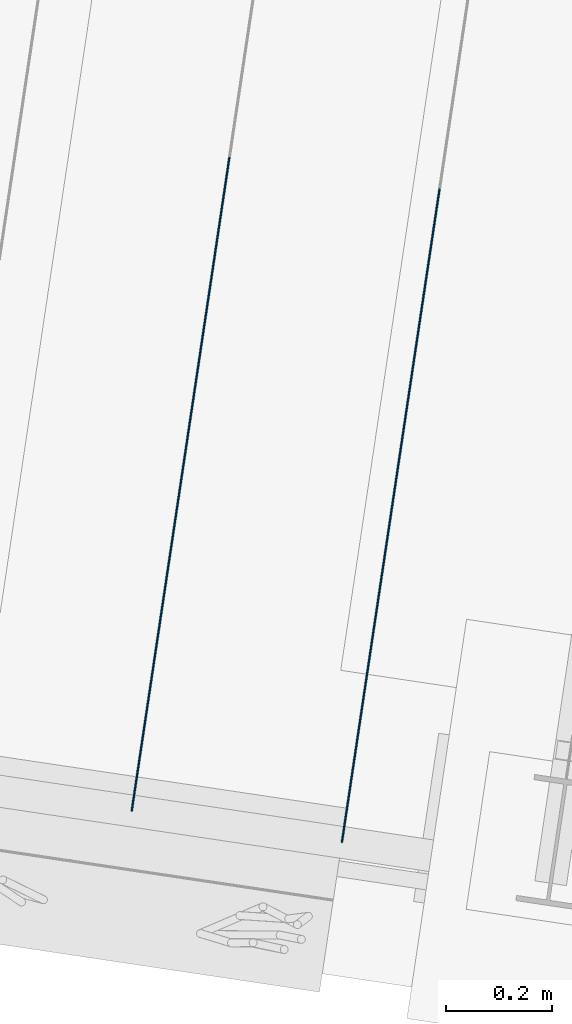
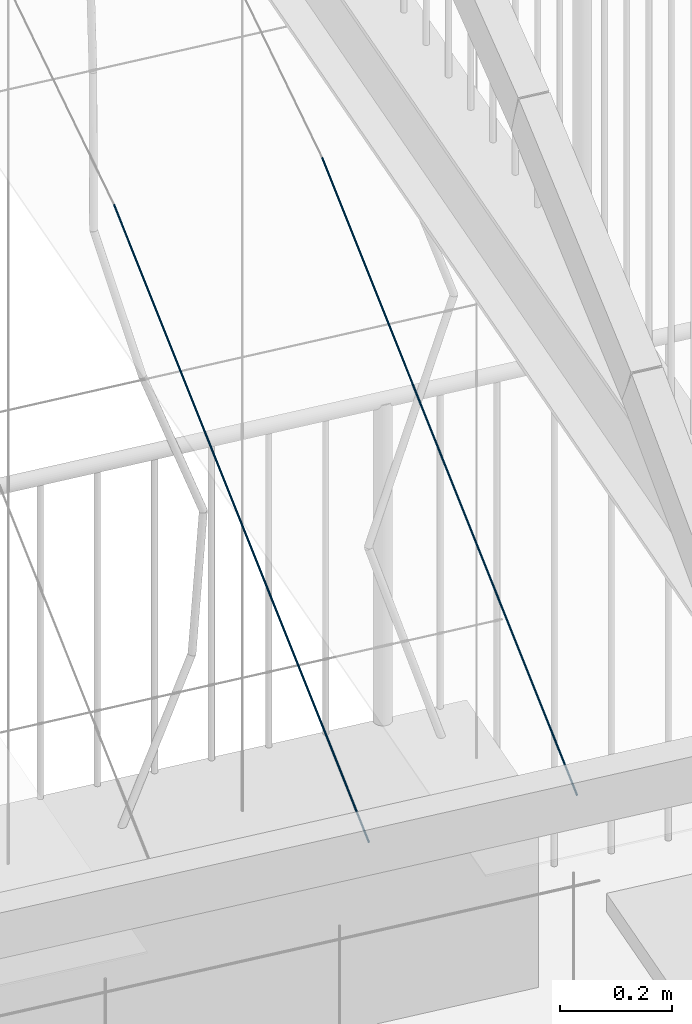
# One storey, part 13 of 142: 2 members, 1 element without a shape of its own.
"""IFC4 building model written with IfcOpenShell, lengths in metres."""

from ifc_helpers import new_model, si_unit, direction, frame, origin_with_axes, place, context, subcontext, project, spatial, circle, extrude, material, material_profile, profile_set, profile_usage, type_object, element, aggregate, save


model = new_model("IFC4")

# Units and contexts
model_context = context("Model", 3, precision=1e-05, world=origin_with_axes(), true_north=direction((0.0, 1.0)))
body_context = subcontext(model_context, "Body", "Model", "MODEL_VIEW")
ifc_project = project(units=[si_unit("LENGTHUNIT", "METRE"), si_unit("AREAUNIT", "SQUARE_METRE"), si_unit("VOLUMEUNIT", "CUBIC_METRE")], contexts=[model_context])

# Site, building, storey
site_placement = place(None, origin_with_axes())
site = spatial("IfcSite", under=ifc_project, at=site_placement, Name="Lares · Rua das Mercês · artigo 4771")
building_placement = place(site_placement, frame((15.0, 9.7, 14.65), z_axis=(0.0, 0.0, 1.0), x_axis=(0.989015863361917, -0.147809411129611, 0.0)))
building = spatial("IfcBuilding", under=site, at=building_placement, Name="Casa Sobreposta")
storey_placement = place(building_placement, origin_with_axes())
storey = spatial("IfcBuildingStorey", under=building, at=storey_placement, Name="00 · Habitação e estacionamento", Elevation=14.65)

# Assembly, members
assembly_placement = place(storey_placement, origin_with_axes())
assembly = element("IfcElementAssembly", 1, at=assembly_placement, inside=storey, Name="Pérgola · prolongamento da estufa 6 m", ObjectType="PERGOLA_GREENHOUSE_EXTENSION", PredefinedType="USERDEFINED")
ifc_material = material(Name="Aço galvanizado / Stahl verzinkt", Category="steel")
ifc_material_profile = material_profile(ifc_material, circle(Radius=0.002))
ifc_profile_set = profile_set([ifc_material_profile], Name="D0.004")
ifc_profile_usage_1 = profile_usage(ifc_profile_set)
member_type = type_object("IfcMemberType", Name="D0.004 / galvanized", PredefinedType="NOTDEFINED", material=ifc_profile_set)
member_1_placement = place(assembly_placement, frame((-3.8, -1.5, 6.23430000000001), z_axis=(0.0, 0.905876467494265, 0.423541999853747), x_axis=(1.0, 0.0, 0.0)))
member_1 = element("IfcMember", 2, at=member_1_placement, type_object=member_type, material=ifc_profile_usage_1, Name="Pérgola · fio para trepadeiras", context=body_context, shape_type="SweptSolid", body=[
    extrude(circle(Radius=0.002), origin_with_axes(), (0.0, 0.0, 1.0), 1.37271642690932),
])
ifc_profile_usage_2 = profile_usage(ifc_profile_set)
member_2_placement = place(assembly_placement, frame((-3.4, -1.5, 6.23430000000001), z_axis=(0.0, 0.905876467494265, 0.423541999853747), x_axis=(1.0, 0.0, 0.0)))
member_2 = element("IfcMember", 3, at=member_2_placement, type_object=member_type, material=ifc_profile_usage_2, Name="Pérgola · fio para trepadeiras", context=body_context, shape_type="SweptSolid", body=[
    extrude(circle(Radius=0.002), origin_with_axes(), (0.0, 0.0, 1.0), 1.37271642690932),
])
aggregate(assembly, [member_1, member_2])

save(model, "model.ifc")
